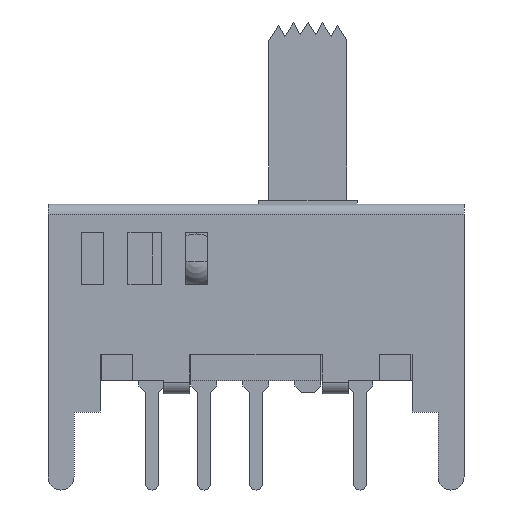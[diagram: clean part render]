
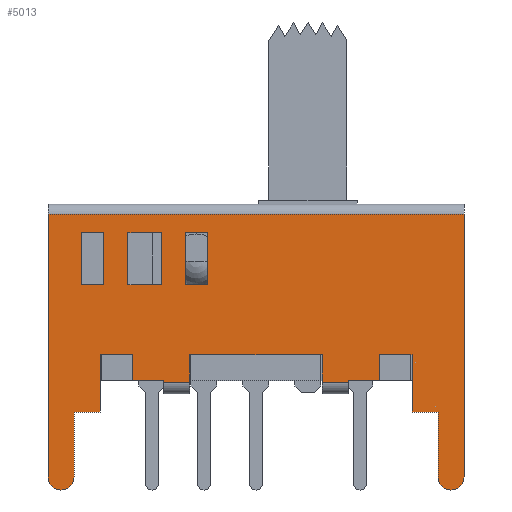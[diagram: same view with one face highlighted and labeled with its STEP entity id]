
A CAD part, front view. The second image highlights one B-rep face of the part: STEP entity #5013.
In plain terms, the highlighted planar face has unit normal (0, -1, 0).
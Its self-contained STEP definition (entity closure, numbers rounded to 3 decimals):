
#129=CARTESIAN_POINT('',(0.5,0.,-10.5));
#130=DIRECTION('',(0.,1.,0.));
#131=DIRECTION('',(1.,0.,0.));
#132=AXIS2_PLACEMENT_3D('',#129,#130,#131);
#134=DIRECTION('',(0.,0.,1.));
#135=VECTOR('',#134,10.1);
#136=CARTESIAN_POINT('',(0.,0.,-10.5));
#137=LINE('',#136,#135);
#138=DIRECTION('',(1.,0.,0.));
#139=VECTOR('',#138,16.);
#140=CARTESIAN_POINT('',(0.,0.,-0.4));
#141=LINE('',#140,#139);
#142=DIRECTION('',(0.,0.,-1.));
#143=VECTOR('',#142,10.1);
#144=CARTESIAN_POINT('',(16.,0.,-0.4));
#145=LINE('',#144,#143);
#146=CARTESIAN_POINT('',(15.5,0.,-10.5));
#147=DIRECTION('',(0.,1.,0.));
#148=DIRECTION('',(1.,0.,0.));
#149=AXIS2_PLACEMENT_3D('',#146,#147,#148);
#151=DIRECTION('',(-1.,0.,0.));
#152=VECTOR('',#151,0.85);
#153=CARTESIAN_POINT('',(2.15,0.,-1.1));
#154=LINE('',#153,#152);
#155=DIRECTION('',(1.,0.,0.));
#156=VECTOR('',#155,1.);
#157=CARTESIAN_POINT('',(10.55,0.,-6.85));
#158=LINE('',#157,#156);
#167=DIRECTION('',(0.,0.,-1.));
#168=VECTOR('',#167,1.05);
#169=CARTESIAN_POINT('',(10.55,0.,-5.8));
#170=LINE('',#169,#168);
#188=DIRECTION('',(1.,0.,0.));
#189=VECTOR('',#188,1.2);
#190=CARTESIAN_POINT('',(3.25,0.,-6.8));
#191=LINE('',#190,#189);
#208=DIRECTION('',(1.,0.,0.));
#209=VECTOR('',#208,1.2);
#210=CARTESIAN_POINT('',(11.55,0.,-6.8));
#211=LINE('',#210,#209);
#448=DIRECTION('',(1.,0.,0.));
#449=VECTOR('',#448,1.25);
#450=CARTESIAN_POINT('',(12.75,0.,-5.8));
#451=LINE('',#450,#449);
#472=DIRECTION('',(0.,0.,1.));
#473=VECTOR('',#472,1.);
#474=CARTESIAN_POINT('',(12.75,0.,-6.8));
#475=LINE('',#474,#473);
#476=DIRECTION('',(0.,0.,-1.));
#477=VECTOR('',#476,2.2);
#478=CARTESIAN_POINT('',(14.,0.,-5.8));
#479=LINE('',#478,#477);
#488=DIRECTION('',(1.,0.,0.));
#489=VECTOR('',#488,1.);
#490=CARTESIAN_POINT('',(14.,0.,-8.));
#491=LINE('',#490,#489);
#500=DIRECTION('',(0.,0.,-1.));
#501=VECTOR('',#500,2.5);
#502=CARTESIAN_POINT('',(15.,0.,-8.));
#503=LINE('',#502,#501);
#756=DIRECTION('',(1.,0.,0.));
#757=VECTOR('',#756,1.25);
#758=CARTESIAN_POINT('',(2.,0.,-5.8));
#759=LINE('',#758,#757);
#772=DIRECTION('',(0.,0.,-1.));
#773=VECTOR('',#772,1.);
#774=CARTESIAN_POINT('',(3.25,0.,-5.8));
#775=LINE('',#774,#773);
#780=DIRECTION('',(0.,0.,1.));
#781=VECTOR('',#780,2.2);
#782=CARTESIAN_POINT('',(2.,0.,-8.));
#783=LINE('',#782,#781);
#792=DIRECTION('',(1.,0.,0.));
#793=VECTOR('',#792,1.);
#794=CARTESIAN_POINT('',(1.,0.,-8.));
#795=LINE('',#794,#793);
#804=DIRECTION('',(0.,0.,1.));
#805=VECTOR('',#804,2.5);
#806=CARTESIAN_POINT('',(1.,0.,-10.5));
#807=LINE('',#806,#805);
#2174=DIRECTION('',(0.,0.,1.));
#2175=VECTOR('',#2174,0.05);
#2176=CARTESIAN_POINT('',(11.55,0.,-6.85));
#2177=LINE('',#2176,#2175);
#2233=DIRECTION('',(1.,0.,0.));
#2234=VECTOR('',#2233,5.1);
#2235=CARTESIAN_POINT('',(5.45,0.,-5.8));
#2236=LINE('',#2235,#2234);
#2306=DIRECTION('',(0.,0.,1.));
#2307=VECTOR('',#2306,1.05);
#2308=CARTESIAN_POINT('',(5.45,0.,-6.85));
#2309=LINE('',#2308,#2307);
#2323=DIRECTION('',(0.,0.,-1.));
#2324=VECTOR('',#2323,0.05);
#2325=CARTESIAN_POINT('',(4.45,0.,-6.8));
#2326=LINE('',#2325,#2324);
#2340=DIRECTION('',(1.,0.,0.));
#2341=VECTOR('',#2340,1.);
#2342=CARTESIAN_POINT('',(4.45,0.,-6.85));
#2343=LINE('',#2342,#2341);
#3390=DIRECTION('',(0.,0.,-1.));
#3391=VECTOR('',#3390,2.);
#3392=CARTESIAN_POINT('',(6.15,0.,-1.1));
#3393=LINE('',#3392,#3391);
#3398=DIRECTION('',(-1.,0.,0.));
#3399=VECTOR('',#3398,0.85);
#3400=CARTESIAN_POINT('',(6.15,0.,-3.1));
#3401=LINE('',#3400,#3399);
#3428=DIRECTION('',(0.,0.,1.));
#3429=VECTOR('',#3428,2.);
#3430=CARTESIAN_POINT('',(5.3,0.,-3.1));
#3431=LINE('',#3430,#3429);
#3451=DIRECTION('',(1.,0.,0.));
#3452=VECTOR('',#3451,0.85);
#3453=CARTESIAN_POINT('',(5.3,0.,-1.1));
#3454=LINE('',#3453,#3452);
#3467=DIRECTION('',(1.,0.,0.));
#3468=VECTOR('',#3467,1.3);
#3469=CARTESIAN_POINT('',(3.075,0.,-1.1));
#3470=LINE('',#3469,#3468);
#3475=DIRECTION('',(0.,0.,-1.));
#3476=VECTOR('',#3475,2.);
#3477=CARTESIAN_POINT('',(4.375,0.,-1.1));
#3478=LINE('',#3477,#3476);
#3487=DIRECTION('',(-1.,0.,0.));
#3488=VECTOR('',#3487,1.3);
#3489=CARTESIAN_POINT('',(4.375,0.,-3.1));
#3490=LINE('',#3489,#3488);
#3499=DIRECTION('',(0.,0.,1.));
#3500=VECTOR('',#3499,2.);
#3501=CARTESIAN_POINT('',(3.075,0.,-3.1));
#3502=LINE('',#3501,#3500);
#3515=DIRECTION('',(0.,0.,1.));
#3516=VECTOR('',#3515,2.);
#3517=CARTESIAN_POINT('',(1.3,0.,-3.1));
#3518=LINE('',#3517,#3516);
#3527=DIRECTION('',(-1.,0.,0.));
#3528=VECTOR('',#3527,0.85);
#3529=CARTESIAN_POINT('',(2.15,0.,-3.1));
#3530=LINE('',#3529,#3528);
#3539=DIRECTION('',(0.,0.,-1.));
#3540=VECTOR('',#3539,2.);
#3541=CARTESIAN_POINT('',(2.15,0.,-1.1));
#3542=LINE('',#3541,#3540);
#3587=CARTESIAN_POINT('',(16.,0.,-10.5));
#3589=VERTEX_POINT('',#3587);
#3591=CARTESIAN_POINT('',(16.,0.,-0.4));
#3592=VERTEX_POINT('',#3591);
#3607=CARTESIAN_POINT('',(0.,0.,-0.4));
#3608=VERTEX_POINT('',#3607);
#3609=CARTESIAN_POINT('',(0.,0.,-10.5));
#3610=VERTEX_POINT('',#3609);
#3665=CARTESIAN_POINT('',(1.3,0.,-1.1));
#3666=VERTEX_POINT('',#3665);
#3667=CARTESIAN_POINT('',(6.15,0.,-1.1));
#3668=CARTESIAN_POINT('',(6.15,0.,-3.1));
#3669=VERTEX_POINT('',#3667);
#3670=VERTEX_POINT('',#3668);
#3671=CARTESIAN_POINT('',(5.3,0.,-1.1));
#3672=VERTEX_POINT('',#3671);
#3673=CARTESIAN_POINT('',(5.3,0.,-3.1));
#3674=VERTEX_POINT('',#3673);
#3675=CARTESIAN_POINT('',(3.075,0.,-1.1));
#3676=CARTESIAN_POINT('',(4.375,0.,-1.1));
#3677=VERTEX_POINT('',#3675);
#3678=VERTEX_POINT('',#3676);
#3679=CARTESIAN_POINT('',(3.075,0.,-3.1));
#3680=VERTEX_POINT('',#3679);
#3681=CARTESIAN_POINT('',(4.375,0.,-3.1));
#3682=VERTEX_POINT('',#3681);
#3683=CARTESIAN_POINT('',(2.15,0.,-1.1));
#3684=VERTEX_POINT('',#3683);
#3685=CARTESIAN_POINT('',(1.3,0.,-3.1));
#3686=VERTEX_POINT('',#3685);
#3687=CARTESIAN_POINT('',(2.15,0.,-3.1));
#3688=VERTEX_POINT('',#3687);
#3689=CARTESIAN_POINT('',(10.55,0.,-6.85));
#3690=CARTESIAN_POINT('',(11.55,0.,-6.85));
#3691=VERTEX_POINT('',#3689);
#3692=VERTEX_POINT('',#3690);
#3693=CARTESIAN_POINT('',(5.45,0.,-5.8));
#3694=CARTESIAN_POINT('',(10.55,0.,-5.8));
#3695=VERTEX_POINT('',#3693);
#3696=VERTEX_POINT('',#3694);
#3697=CARTESIAN_POINT('',(4.45,0.,-6.85));
#3698=CARTESIAN_POINT('',(5.45,0.,-6.85));
#3699=VERTEX_POINT('',#3697);
#3700=VERTEX_POINT('',#3698);
#3701=CARTESIAN_POINT('',(3.25,0.,-5.8));
#3702=CARTESIAN_POINT('',(3.25,0.,-6.8));
#3703=VERTEX_POINT('',#3701);
#3704=VERTEX_POINT('',#3702);
#3705=CARTESIAN_POINT('',(2.,0.,-5.8));
#3706=VERTEX_POINT('',#3705);
#3707=CARTESIAN_POINT('',(2.,0.,-8.));
#3708=VERTEX_POINT('',#3707);
#3709=CARTESIAN_POINT('',(1.,0.,-8.));
#3710=VERTEX_POINT('',#3709);
#3711=CARTESIAN_POINT('',(1.,0.,-10.5));
#3712=VERTEX_POINT('',#3711);
#3713=CARTESIAN_POINT('',(15.,0.,-10.5));
#3714=VERTEX_POINT('',#3713);
#3715=CARTESIAN_POINT('',(15.,0.,-8.));
#3716=VERTEX_POINT('',#3715);
#3717=CARTESIAN_POINT('',(14.,0.,-8.));
#3718=VERTEX_POINT('',#3717);
#3719=CARTESIAN_POINT('',(14.,0.,-5.8));
#3720=VERTEX_POINT('',#3719);
#3721=CARTESIAN_POINT('',(12.75,0.,-5.8));
#3722=VERTEX_POINT('',#3721);
#3723=CARTESIAN_POINT('',(12.75,0.,-6.8));
#3724=VERTEX_POINT('',#3723);
#3725=CARTESIAN_POINT('',(11.55,0.,-6.8));
#3726=VERTEX_POINT('',#3725);
#3765=CARTESIAN_POINT('',(4.45,0.,-6.8));
#3766=VERTEX_POINT('',#3765);
#4931=CARTESIAN_POINT('',(8.,0.,-5.7));
#4932=DIRECTION('',(0.,1.,0.));
#4933=DIRECTION('',(1.,0.,0.));
#4934=AXIS2_PLACEMENT_3D('',#4931,#4932,#4933);
#4935=PLANE('',#4934);
#4937=ORIENTED_EDGE('',*,*,#4936,.F.);
#4939=ORIENTED_EDGE('',*,*,#4938,.F.);
#4941=ORIENTED_EDGE('',*,*,#4940,.F.);
#4943=ORIENTED_EDGE('',*,*,#4942,.F.);
#4945=ORIENTED_EDGE('',*,*,#4944,.F.);
#4947=ORIENTED_EDGE('',*,*,#4946,.F.);
#4949=ORIENTED_EDGE('',*,*,#4948,.F.);
#4951=ORIENTED_EDGE('',*,*,#4950,.F.);
#4953=ORIENTED_EDGE('',*,*,#4952,.F.);
#4955=ORIENTED_EDGE('',*,*,#4954,.F.);
#4957=ORIENTED_EDGE('',*,*,#4956,.F.);
#4959=ORIENTED_EDGE('',*,*,#4958,.F.);
#4961=ORIENTED_EDGE('',*,*,#4960,.T.);
#4962=ORIENTED_EDGE('',*,*,#4816,.T.);
#4964=ORIENTED_EDGE('',*,*,#4963,.T.);
#4965=ORIENTED_EDGE('',*,*,#4762,.T.);
#4967=ORIENTED_EDGE('',*,*,#4966,.T.);
#4969=ORIENTED_EDGE('',*,*,#4968,.F.);
#4971=ORIENTED_EDGE('',*,*,#4970,.F.);
#4973=ORIENTED_EDGE('',*,*,#4972,.F.);
#4975=ORIENTED_EDGE('',*,*,#4974,.F.);
#4977=ORIENTED_EDGE('',*,*,#4976,.F.);
#4979=ORIENTED_EDGE('',*,*,#4978,.F.);
#4981=ORIENTED_EDGE('',*,*,#4980,.F.);
#4982=EDGE_LOOP('',(#4937,#4939,#4941,#4943,#4945,#4947,#4949,#4951,#4953,#4955,
#4957,#4959,#4961,#4962,#4964,#4965,#4967,#4969,#4971,#4973,#4975,#4977,#4979,
#4981));
#4983=FACE_OUTER_BOUND('',#4982,.F.);
#4985=ORIENTED_EDGE('',*,*,#4984,.F.);
#4987=ORIENTED_EDGE('',*,*,#4986,.F.);
#4989=ORIENTED_EDGE('',*,*,#4988,.F.);
#4991=ORIENTED_EDGE('',*,*,#4990,.F.);
#4992=EDGE_LOOP('',(#4985,#4987,#4989,#4991));
#4993=FACE_BOUND('',#4992,.F.);
#4995=ORIENTED_EDGE('',*,*,#4994,.F.);
#4997=ORIENTED_EDGE('',*,*,#4996,.F.);
#4999=ORIENTED_EDGE('',*,*,#4998,.F.);
#5001=ORIENTED_EDGE('',*,*,#5000,.F.);
#5002=EDGE_LOOP('',(#4995,#4997,#4999,#5001));
#5003=FACE_BOUND('',#5002,.F.);
#5004=ORIENTED_EDGE('',*,*,#4921,.T.);
#5006=ORIENTED_EDGE('',*,*,#5005,.F.);
#5008=ORIENTED_EDGE('',*,*,#5007,.F.);
#5010=ORIENTED_EDGE('',*,*,#5009,.F.);
#5011=EDGE_LOOP('',(#5004,#5006,#5008,#5010));
#5012=FACE_BOUND('',#5011,.F.);
#5013=ADVANCED_FACE('',(#4983,#4993,#5003,#5012),#4935,.F.);
#133=CIRCLE('',#132,0.5);
#150=CIRCLE('',#149,0.5);
#4762=EDGE_CURVE('',#3592,#3589,#145,.T.);
#4816=EDGE_CURVE('',#3610,#3608,#137,.T.);
#4921=EDGE_CURVE('',#3684,#3666,#154,.T.);
#4936=EDGE_CURVE('',#3691,#3692,#158,.T.);
#4938=EDGE_CURVE('',#3696,#3691,#170,.T.);
#4940=EDGE_CURVE('',#3695,#3696,#2236,.T.);
#4942=EDGE_CURVE('',#3700,#3695,#2309,.T.);
#4944=EDGE_CURVE('',#3699,#3700,#2343,.T.);
#4946=EDGE_CURVE('',#3766,#3699,#2326,.T.);
#4948=EDGE_CURVE('',#3704,#3766,#191,.T.);
#4950=EDGE_CURVE('',#3703,#3704,#775,.T.);
#4952=EDGE_CURVE('',#3706,#3703,#759,.T.);
#4954=EDGE_CURVE('',#3708,#3706,#783,.T.);
#4956=EDGE_CURVE('',#3710,#3708,#795,.T.);
#4958=EDGE_CURVE('',#3712,#3710,#807,.T.);
#4960=EDGE_CURVE('',#3712,#3610,#133,.T.);
#4963=EDGE_CURVE('',#3608,#3592,#141,.T.);
#4966=EDGE_CURVE('',#3589,#3714,#150,.T.);
#4968=EDGE_CURVE('',#3716,#3714,#503,.T.);
#4970=EDGE_CURVE('',#3718,#3716,#491,.T.);
#4972=EDGE_CURVE('',#3720,#3718,#479,.T.);
#4974=EDGE_CURVE('',#3722,#3720,#451,.T.);
#4976=EDGE_CURVE('',#3724,#3722,#475,.T.);
#4978=EDGE_CURVE('',#3726,#3724,#211,.T.);
#4980=EDGE_CURVE('',#3692,#3726,#2177,.T.);
#4984=EDGE_CURVE('',#3669,#3670,#3393,.T.);
#4986=EDGE_CURVE('',#3672,#3669,#3454,.T.);
#4988=EDGE_CURVE('',#3674,#3672,#3431,.T.);
#4990=EDGE_CURVE('',#3670,#3674,#3401,.T.);
#4994=EDGE_CURVE('',#3677,#3678,#3470,.T.);
#4996=EDGE_CURVE('',#3680,#3677,#3502,.T.);
#4998=EDGE_CURVE('',#3682,#3680,#3490,.T.);
#5000=EDGE_CURVE('',#3678,#3682,#3478,.T.);
#5005=EDGE_CURVE('',#3686,#3666,#3518,.T.);
#5007=EDGE_CURVE('',#3688,#3686,#3530,.T.);
#5009=EDGE_CURVE('',#3684,#3688,#3542,.T.);
